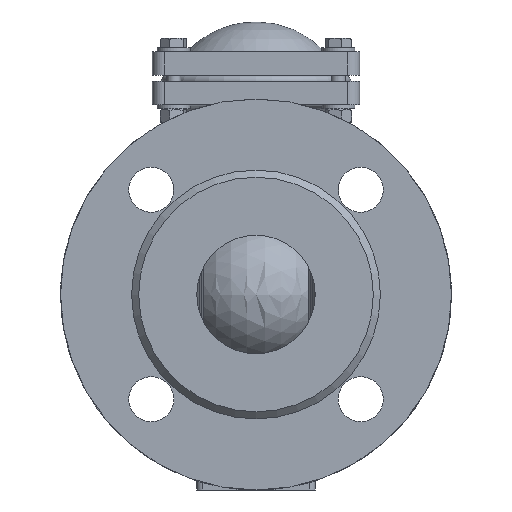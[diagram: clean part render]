
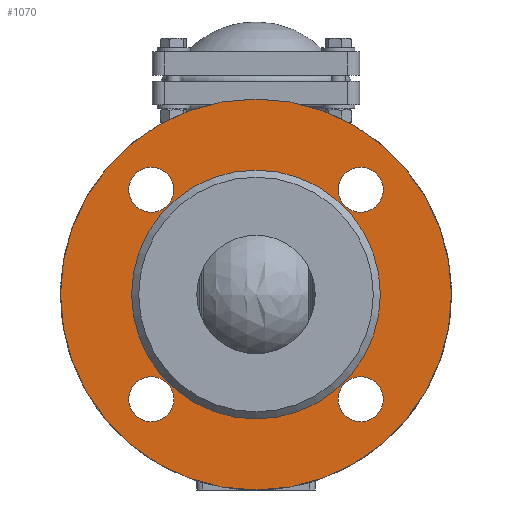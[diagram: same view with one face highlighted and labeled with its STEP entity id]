
A CAD part, left-side view. The second image highlights one B-rep face of the part: STEP entity #1070.
In plain terms, the highlighted planar face has unit normal (-1, 0, 0).
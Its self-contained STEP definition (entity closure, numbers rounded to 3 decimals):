
#1070=ADVANCED_FACE('',(#4470,#4472,#4474,#4476,#4478,#4480),#4482,.F.);
#4470=FACE_BOUND('',#4471,.T.);
#4471=EDGE_LOOP('',(#9054));
#4472=FACE_BOUND('',#4473,.T.);
#4473=EDGE_LOOP('',(#9055));
#4474=FACE_BOUND('',#4475,.T.);
#4475=EDGE_LOOP('',(#9056));
#4476=FACE_BOUND('',#4477,.T.);
#4477=EDGE_LOOP('',(#9057));
#4478=FACE_BOUND('',#4479,.T.);
#4479=EDGE_LOOP('',(#9058));
#4480=FACE_BOUND('',#4481,.T.);
#4481=EDGE_LOOP('',(#9059));
#4482=PLANE('',#4483);
#4483=AXIS2_PLACEMENT_3D('',#4484,#4485,#4486);
#4484=CARTESIAN_POINT('',(-197.,0.,0.));
#4485=DIRECTION('',(1.,0.,0.));
#4486=DIRECTION('',(0.,0.,1.));
#9054=ORIENTED_EDGE('',*,*,#11546,.T.);
#9055=ORIENTED_EDGE('',*,*,#11547,.T.);
#9056=ORIENTED_EDGE('',*,*,#11548,.T.);
#9057=ORIENTED_EDGE('',*,*,#11549,.T.);
#9058=ORIENTED_EDGE('',*,*,#11550,.T.);
#9059=ORIENTED_EDGE('',*,*,#11359,.F.);
#11359=EDGE_CURVE('',#12479,#12479,#12480,.T.);
#11546=EDGE_CURVE('',#12846,#12846,#12847,.T.);
#11547=EDGE_CURVE('',#12848,#12848,#12849,.T.);
#11548=EDGE_CURVE('',#12850,#12850,#12851,.T.);
#11549=EDGE_CURVE('',#12852,#12852,#12853,.T.);
#11550=EDGE_CURVE('',#12854,#12854,#12855,.T.);
#12479=VERTEX_POINT('',#15493);
#12480=CIRCLE('',#15494,52.5);
#12846=VERTEX_POINT('',#16581);
#12847=CIRCLE('',#16582,82.5);
#12848=VERTEX_POINT('',#16586);
#12849=CIRCLE('',#16587,9.5);
#12850=VERTEX_POINT('',#16591);
#12851=CIRCLE('',#16592,9.5);
#12852=VERTEX_POINT('',#16596);
#12853=CIRCLE('',#16597,9.5);
#12854=VERTEX_POINT('',#16601);
#12855=CIRCLE('',#16602,9.5);
#15493=CARTESIAN_POINT('',(-197.,0.,52.5));
#15494=AXIS2_PLACEMENT_3D('',#15495,#15496,#15497);
#15495=CARTESIAN_POINT('',(-197.,0.,0.));
#15496=DIRECTION('',(-1.,0.,0.));
#15497=DIRECTION('',(0.,0.,1.));
#16581=CARTESIAN_POINT('',(-197.,0.,82.5));
#16582=AXIS2_PLACEMENT_3D('',#16583,#16584,#16585);
#16583=CARTESIAN_POINT('',(-197.,0.,0.));
#16584=DIRECTION('',(-1.,0.,0.));
#16585=DIRECTION('',(0.,0.,1.));
#16586=CARTESIAN_POINT('',(-197.,53.694,44.194));
#16587=AXIS2_PLACEMENT_3D('',#16588,#16589,#16590);
#16588=CARTESIAN_POINT('',(-197.,44.194,44.194));
#16589=DIRECTION('',(1.,0.,0.));
#16590=DIRECTION('',(0.,1.,0.));
#16591=CARTESIAN_POINT('',(-197.,-44.194,53.694));
#16592=AXIS2_PLACEMENT_3D('',#16593,#16594,#16595);
#16593=CARTESIAN_POINT('',(-197.,-44.194,44.194));
#16594=DIRECTION('',(1.,0.,0.));
#16595=DIRECTION('',(0.,0.,1.));
#16596=CARTESIAN_POINT('',(-197.,-53.694,-44.194));
#16597=AXIS2_PLACEMENT_3D('',#16598,#16599,#16600);
#16598=CARTESIAN_POINT('',(-197.,-44.194,-44.194));
#16599=DIRECTION('',(1.,0.,0.));
#16600=DIRECTION('',(0.,-1.,0.));
#16601=CARTESIAN_POINT('',(-197.,44.194,-53.694));
#16602=AXIS2_PLACEMENT_3D('',#16603,#16604,#16605);
#16603=CARTESIAN_POINT('',(-197.,44.194,-44.194));
#16604=DIRECTION('',(1.,0.,0.));
#16605=DIRECTION('',(0.,0.,-1.));
